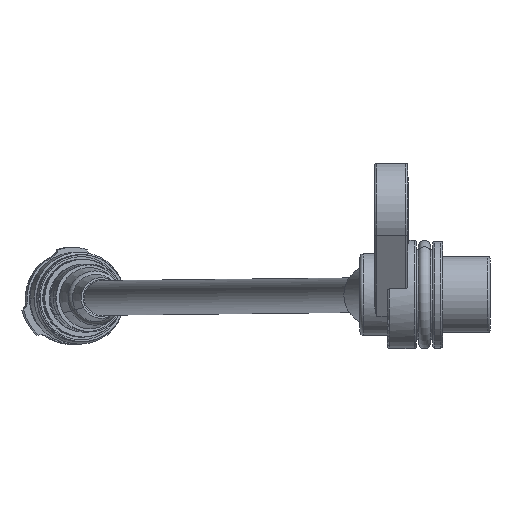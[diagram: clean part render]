
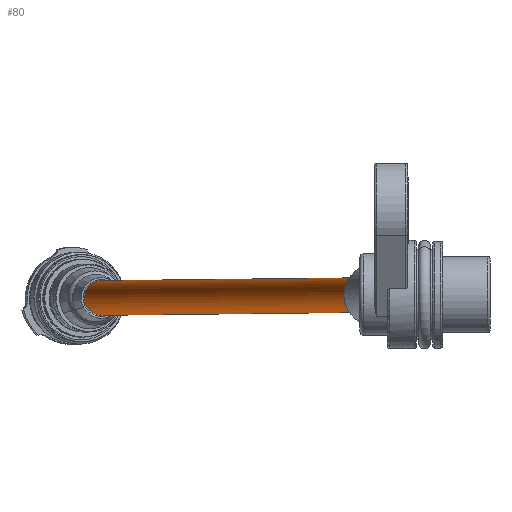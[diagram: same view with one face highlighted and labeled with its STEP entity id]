
A CAD part, top view. The second image highlights one B-rep face of the part: STEP entity #80.
In plain terms, the highlighted cylindrical face has radius 2.55 mm (diameter 5.1 mm), a partial arc.
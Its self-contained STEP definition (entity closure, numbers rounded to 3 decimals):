
#44=AXIS2_PLACEMENT_3D('Cylinder Axis2P3D',#41,#42,#43) ;
#57=AXIS2_PLACEMENT_3D('Circle Axis2P3D',#55,#56,$) ;
#71=AXIS2_PLACEMENT_3D('Circle Axis2P3D',#69,#70,$) ;
#41=CARTESIAN_POINT('Axis2P3D Location',(-22.78,0.,-157.227)) ;
#46=CARTESIAN_POINT('Line Origine',(-22.78,-2.55,-157.227)) ;
#50=CARTESIAN_POINT('Vertex',(-1.662,-2.55,-23.889)) ;
#52=CARTESIAN_POINT('Vertex',(-43.899,-2.55,-290.565)) ;
#55=CARTESIAN_POINT('Axis2P3D Location',(-1.662,0.,-23.889)) ;
#59=CARTESIAN_POINT('Vertex',(-1.662,2.55,-23.889)) ;
#62=CARTESIAN_POINT('Line Origine',(-22.78,2.55,-157.227)) ;
#66=CARTESIAN_POINT('Vertex',(-43.899,2.55,-290.565)) ;
#69=CARTESIAN_POINT('Axis2P3D Location',(-43.899,0.,-290.565)) ;
#42=DIRECTION('Axis2P3D Direction',(-0.156,0.,-0.988)) ;
#43=DIRECTION('Axis2P3D XDirection',(0.,-1.,0.)) ;
#47=DIRECTION('Vector Direction',(-0.156,0.,-0.988)) ;
#56=DIRECTION('Axis2P3D Direction',(-0.156,0.,-0.988)) ;
#63=DIRECTION('Vector Direction',(-0.156,0.,-0.988)) ;
#70=DIRECTION('Axis2P3D Direction',(-0.156,0.,-0.988)) ;
#48=VECTOR('Line Direction',#47,1.) ;
#64=VECTOR('Line Direction',#63,1.) ;
#75=ORIENTED_EDGE('',*,*,#54,.F.) ;
#76=ORIENTED_EDGE('',*,*,#61,.T.) ;
#77=ORIENTED_EDGE('',*,*,#68,.T.) ;
#78=ORIENTED_EDGE('',*,*,#73,.F.) ;
#80=ADVANCED_FACE('PartBody',(#79),#45,.T.) ;
#58=CIRCLE('generated circle',#57,2.55) ;
#72=CIRCLE('generated circle',#71,2.55) ;
#45=CYLINDRICAL_SURFACE('generated cylinder',#44,2.55) ;
#54=EDGE_CURVE('',#51,#53,#49,.T.) ;
#61=EDGE_CURVE('',#51,#60,#58,.T.) ;
#68=EDGE_CURVE('',#60,#67,#65,.T.) ;
#73=EDGE_CURVE('',#53,#67,#72,.T.) ;
#74=EDGE_LOOP('',(#75,#76,#77,#78)) ;
#79=FACE_OUTER_BOUND('',#74,.T.) ;
#49=LINE('Line',#46,#48) ;
#65=LINE('Line',#62,#64) ;
#51=VERTEX_POINT('',#50) ;
#53=VERTEX_POINT('',#52) ;
#60=VERTEX_POINT('',#59) ;
#67=VERTEX_POINT('',#66) ;
